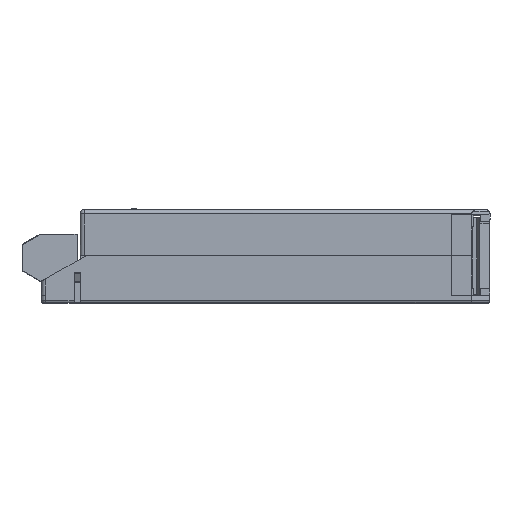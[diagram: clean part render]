
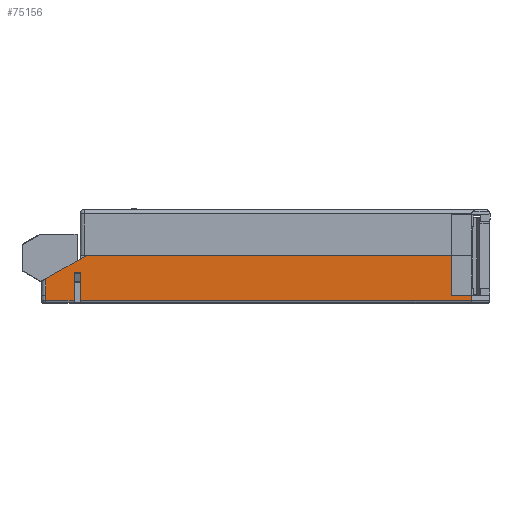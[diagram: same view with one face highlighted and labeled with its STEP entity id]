
A CAD part, top view. The second image highlights one B-rep face of the part: STEP entity #75156.
In plain terms, the highlighted planar face has unit normal (0, 0, 1).
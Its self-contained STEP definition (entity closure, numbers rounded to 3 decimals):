
#1869 = DIRECTION ( 'NONE',  ( 0., -1., 0. ) ) ;
#2374 = EDGE_CURVE ( 'NONE', #3670, #60906, #3966, .T. ) ;
#3670 = VERTEX_POINT ( 'NONE', #72568 ) ;
#3966 = LINE ( 'NONE', #53197, #25964 ) ;
#6802 = PLANE ( 'NONE',  #55806 ) ;
#10188 = VECTOR ( 'NONE', #24853, 1000. ) ;
#13820 = EDGE_CURVE ( 'NONE', #40325, #87708, #84122, .T. ) ;
#16301 = EDGE_CURVE ( 'NONE', #100708, #81543, #98300, .T. ) ;
#17942 = VECTOR ( 'NONE', #120414, 1000. ) ;
#19565 = EDGE_CURVE ( 'NONE', #89132, #80245, #120734, .T. ) ;
#20665 = EDGE_CURVE ( 'NONE', #49208, #89132, #104217, .T. ) ;
#20706 = EDGE_CURVE ( 'NONE', #98178, #77348, #117407, .T. ) ;
#20769 = VECTOR ( 'NONE', #1869, 1000. ) ;
#23341 = EDGE_CURVE ( 'NONE', #40325, #98178, #66761, .T. ) ;
#23411 = VERTEX_POINT ( 'NONE', #85699 ) ;
#23896 = ORIENTED_EDGE ( 'NONE', *, *, #20706, .T. ) ;
#24775 = ORIENTED_EDGE ( 'NONE', *, *, #66821, .F. ) ;
#24853 = DIRECTION ( 'NONE',  ( -0.869, -0.494, 0. ) ) ;
#25964 = VECTOR ( 'NONE', #72058, 1000. ) ;
#30773 = CARTESIAN_POINT ( 'NONE',  ( -38.499, 1.8, 37.495 ) ) ;
#32972 = CARTESIAN_POINT ( 'NONE',  ( 61.001, 1.8, 37.495 ) ) ;
#33305 = VECTOR ( 'NONE', #65402, 1000. ) ;
#37310 = CARTESIAN_POINT ( 'NONE',  ( 65.998, 1.8, 37.495 ) ) ;
#37528 = CARTESIAN_POINT ( 'NONE',  ( -31.499, 1.8, 37.495 ) ) ;
#38899 = VECTOR ( 'NONE', #56175, 1000. ) ;
#40325 = VERTEX_POINT ( 'NONE', #108551 ) ;
#40966 = CARTESIAN_POINT ( 'NONE',  ( -38.499, 5.868, 37.495 ) ) ;
#41179 = LINE ( 'NONE', #112587, #88146 ) ;
#43192 = DIRECTION ( 'NONE',  ( 0., -1., 0. ) ) ;
#44246 = CARTESIAN_POINT ( 'NONE',  ( -31.499, 7.3, 37.495 ) ) ;
#44265 = ORIENTED_EDGE ( 'NONE', *, *, #19565, .T. ) ;
#49208 = VERTEX_POINT ( 'NONE', #100764 ) ;
#49544 = LINE ( 'NONE', #52569, #96593 ) ;
#52569 = CARTESIAN_POINT ( 'NONE',  ( 65.998, 1.8, 37.495 ) ) ;
#53081 = DIRECTION ( 'NONE',  ( -1., 0., 0. ) ) ;
#53197 = CARTESIAN_POINT ( 'NONE',  ( -31.499, 0.5, 37.495 ) ) ;
#53911 = CARTESIAN_POINT ( 'NONE',  ( 65.998, 1.8, 37.495 ) ) ;
#54516 = DIRECTION ( 'NONE',  ( 0., -1., 0. ) ) ;
#55375 = EDGE_CURVE ( 'NONE', #81543, #77348, #49544, .T. ) ;
#55782 = CARTESIAN_POINT ( 'NONE',  ( -29.999, 1.8, 37.495 ) ) ;
#55806 = AXIS2_PLACEMENT_3D ( 'NONE', #53911, #119741, #63312 ) ;
#55979 = ORIENTED_EDGE ( 'NONE', *, *, #23341, .T. ) ;
#56175 = DIRECTION ( 'NONE',  ( 0., -1., 0. ) ) ;
#56268 = DIRECTION ( 'NONE',  ( 1., 0., 0. ) ) ;
#60906 = VERTEX_POINT ( 'NONE', #83652 ) ;
#63312 = DIRECTION ( 'NONE',  ( -1., 0., 0. ) ) ;
#63896 = CARTESIAN_POINT ( 'NONE',  ( -38.499, 1.8, 37.495 ) ) ;
#63962 = CARTESIAN_POINT ( 'NONE',  ( 61.001, 11.55, 37.495 ) ) ;
#64006 = FACE_OUTER_BOUND ( 'NONE', #107217, .T. ) ;
#65402 = DIRECTION ( 'NONE',  ( 0., -1., 0. ) ) ;
#66761 = LINE ( 'NONE', #55782, #38899 ) ;
#66821 = EDGE_CURVE ( 'NONE', #23411, #100708, #70764, .T. ) ;
#67416 = CARTESIAN_POINT ( 'NONE',  ( -38.499, 1.8, 37.495 ) ) ;
#70764 = LINE ( 'NONE', #63962, #17942 ) ;
#72058 = DIRECTION ( 'NONE',  ( 1., 0., 0. ) ) ;
#72568 = CARTESIAN_POINT ( 'NONE',  ( -38.499, 0.5, 37.495 ) ) ;
#74211 = DIRECTION ( 'NONE',  ( 1., 0., 0. ) ) ;
#75156 = ADVANCED_FACE ( 'NONE', ( #64006 ), #6802, .F. ) ;
#76288 = CARTESIAN_POINT ( 'NONE',  ( 65.998, 1.8, 37.495 ) ) ;
#77348 = VERTEX_POINT ( 'NONE', #108422 ) ;
#80245 = VERTEX_POINT ( 'NONE', #30773 ) ;
#80269 = LINE ( 'NONE', #37528, #33305 ) ;
#81050 = CARTESIAN_POINT ( 'NONE',  ( -28.499, 11.55, 37.495 ) ) ;
#81426 = CARTESIAN_POINT ( 'NONE',  ( -31.499, 7.3, 37.495 ) ) ;
#81543 = VERTEX_POINT ( 'NONE', #76288 ) ;
#81979 = ORIENTED_EDGE ( 'NONE', *, *, #111573, .F. ) ;
#83652 = CARTESIAN_POINT ( 'NONE',  ( -31.499, 0.5, 37.495 ) ) ;
#84122 = LINE ( 'NONE', #81426, #106250 ) ;
#85699 = CARTESIAN_POINT ( 'NONE',  ( 61.001, 11.55, 37.495 ) ) ;
#87708 = VERTEX_POINT ( 'NONE', #44246 ) ;
#88146 = VECTOR ( 'NONE', #56268, 1000. ) ;
#89132 = VERTEX_POINT ( 'NONE', #40966 ) ;
#91037 = VECTOR ( 'NONE', #54516, 1000. ) ;
#92344 = VECTOR ( 'NONE', #121695, 1000. ) ;
#93326 = EDGE_CURVE ( 'NONE', #87708, #60906, #80269, .T. ) ;
#94031 = LINE ( 'NONE', #63896, #91037 ) ;
#94792 = ORIENTED_EDGE ( 'NONE', *, *, #20665, .T. ) ;
#95366 = VECTOR ( 'NONE', #74211, 1000. ) ;
#96593 = VECTOR ( 'NONE', #43192, 1000. ) ;
#98178 = VERTEX_POINT ( 'NONE', #117854 ) ;
#98231 = ORIENTED_EDGE ( 'NONE', *, *, #104873, .T. ) ;
#98300 = LINE ( 'NONE', #37310, #95366 ) ;
#99430 = ORIENTED_EDGE ( 'NONE', *, *, #93326, .F. ) ;
#100708 = VERTEX_POINT ( 'NONE', #32972 ) ;
#100764 = CARTESIAN_POINT ( 'NONE',  ( -28.499, 11.55, 37.495 ) ) ;
#102257 = ORIENTED_EDGE ( 'NONE', *, *, #55375, .F. ) ;
#104217 = LINE ( 'NONE', #81050, #10188 ) ;
#104596 = ORIENTED_EDGE ( 'NONE', *, *, #13820, .F. ) ;
#104873 = EDGE_CURVE ( 'NONE', #80245, #3670, #94031, .T. ) ;
#106250 = VECTOR ( 'NONE', #53081, 1000. ) ;
#107217 = EDGE_LOOP ( 'NONE', ( #94792, #44265, #98231, #112426, #99430, #104596, #55979, #23896, #102257, #115303, #24775, #81979 ) ) ;
#108422 = CARTESIAN_POINT ( 'NONE',  ( 65.998, 0.5, 37.495 ) ) ;
#108551 = CARTESIAN_POINT ( 'NONE',  ( -29.999, 7.3, 37.495 ) ) ;
#109481 = CARTESIAN_POINT ( 'NONE',  ( 65.998, 0.5, 37.495 ) ) ;
#111573 = EDGE_CURVE ( 'NONE', #49208, #23411, #41179, .T. ) ;
#112426 = ORIENTED_EDGE ( 'NONE', *, *, #2374, .T. ) ;
#112587 = CARTESIAN_POINT ( 'NONE',  ( -28.499, 11.55, 37.495 ) ) ;
#115303 = ORIENTED_EDGE ( 'NONE', *, *, #16301, .F. ) ;
#117407 = LINE ( 'NONE', #109481, #92344 ) ;
#117854 = CARTESIAN_POINT ( 'NONE',  ( -29.999, 0.5, 37.495 ) ) ;
#119741 = DIRECTION ( 'NONE',  ( 0., 0., -1. ) ) ;
#120414 = DIRECTION ( 'NONE',  ( 0., -1., 0. ) ) ;
#120734 = LINE ( 'NONE', #67416, #20769 ) ;
#121695 = DIRECTION ( 'NONE',  ( 1., 0., 0. ) ) ;
